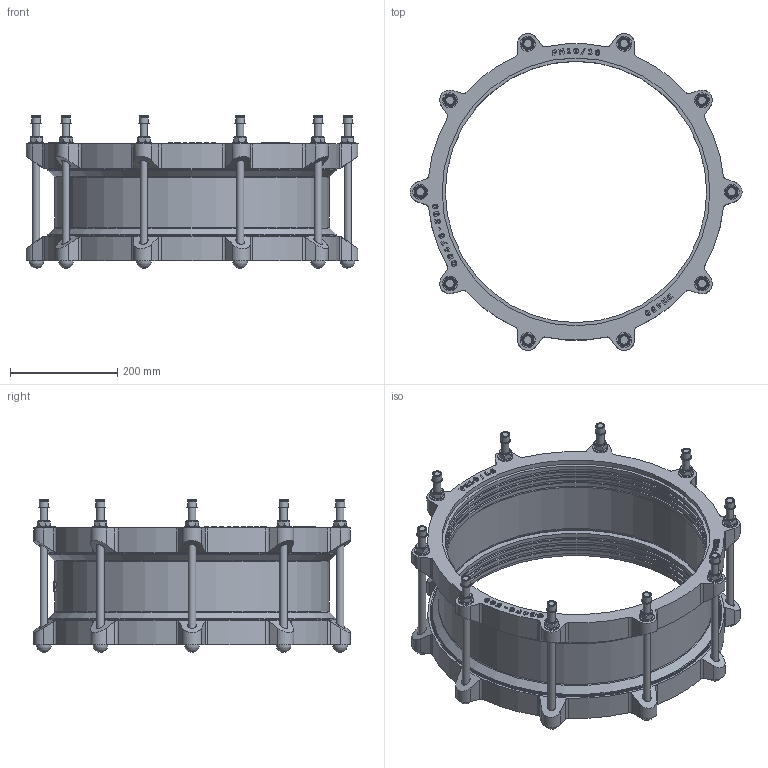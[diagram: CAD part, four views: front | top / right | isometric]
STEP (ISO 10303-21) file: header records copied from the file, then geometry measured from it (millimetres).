
FILE_DESCRIPTION(('STEP AP203'), '1');
FILE_NAME('Cîåäèíèòåëüíàÿ ìóôòà äëÿ æåñòêèõ òðóá', '', ('UNSPECIFIED'), ('UNSPECIFIED'), 'C3D Converter', 'C3D Toolkit', '');
FILE_SCHEMA(('CONFIG_CONTROL_DESIGN'));
Length unit declared in the file: millimetre
Assembly tree (45 placements, depth 2):
  (unnamed)
    (unnamed)
    (unnamed)  x10
    (unnamed)  x10
    (unnamed)  x10
    (unnamed)  x10
    (unnamed)
    (unnamed)
    (unnamed)  x2
Bounding box: 620 x 591.51 x 285.4 mm (x, y, z)
Volume: 7564699.6 mm3; surface area: 1765498.5 mm2
Topology: 49 solids, 49 shells, 1051 faces, 2542 edges, 1660 vertices
Faces by surface type: plane 416, extrusion 314, cylinder 207, cone 76, torus 28, sphere 10
Full cylindrical faces by diameter (mm): 14 x30, 15 x10, 16 x20, 16.8 x10, 19.6 x10, 23.29 x1, 28 x10, 488 x8, 494 x6, 500 x3, 506 x2, 512 x3, 539 x2, 542 x4
Entity records: 37314 total; most frequent: CARTESIAN_POINT 14619, ORIENTED_EDGE 3856, DIRECTION 2684, EDGE_CURVE 1928, VERTEX_POINT 1314, VECTOR 1202, B_SPLINE_CURVE_WITH_KNOTS 1075, EDGE_LOOP 946
